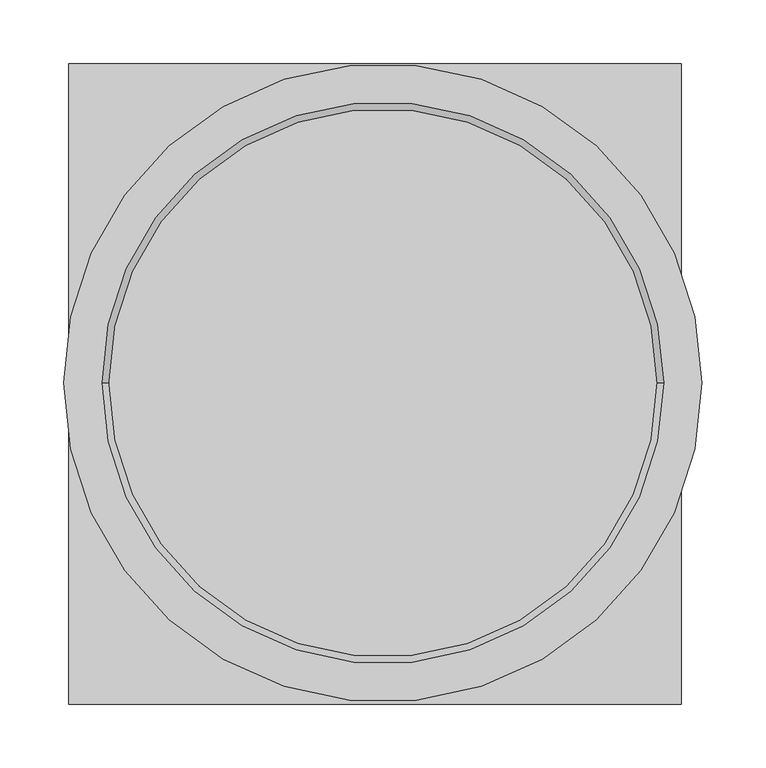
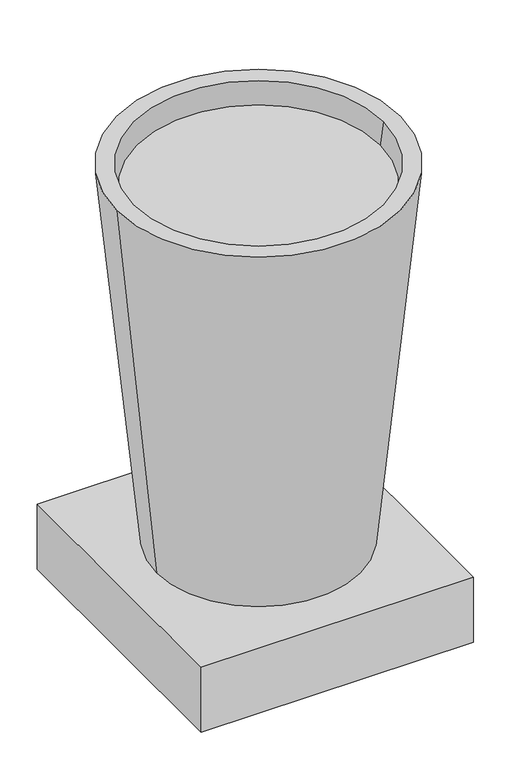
"""IFC4 building model written with IfcOpenShell, lengths in millimetres: flow terminal geometry, Fixierte Ausstattung Brunnen : Brunnen."""

from ifc_helpers import new_model, si_unit, frame, origin, place, context, project, spatial, polyline, circle_curve, outline, extrude, source, transform, mapped, element, save
from ifc_brep_helpers import plane_surface, revolved_surface, advanced_brep


def flow_terminal_dcfcd022(model_context):
    return source(origin(), model_context, "Body", "SolidModel", [
        extrude(outline(polyline([(233.7494364, 250.0), (233.7494364, -251.6607488), (-246.2505636, -251.6607488), (-246.2505636, 250.0), (233.7494364, 250.0)])), frame((0.0, 0.0, -121.0), z_axis=(0.0, 0.0, 1.0), x_axis=(1.0, 0.0, 0.0)), (0.0, 0.0, 1.0), 121.0),
        advanced_brep(
        [(-220.0, 0.0, 658.2324572), (220.0, 0.0, 658.2324572), (-130.0, 0.0, 50.0), (130.0, 0.0, 50.0)],
        [
            (0, 1, circle_curve(frame((0.0, 0.0, 658.2324572), z_axis=(0.0, 0.0, 1.0), x_axis=(1.0, 0.0, 0.0)), 220.0)),
            (1, 0, circle_curve(frame((0.0, 0.0, 658.2324572), z_axis=(0.0, 0.0, 1.0), x_axis=(-1.0, 0.0, 0.0)), 220.0)),
            (2, 3, circle_curve(frame((0.0, 0.0, 50.0), z_axis=(0.0, 0.0, -1.0), x_axis=(-1.0, 0.0, 0.0)), 130.0)),
            (3, 2, circle_curve(frame((0.0, 0.0, 50.0), z_axis=(0.0, 0.0, -1.0), x_axis=(1.0, 0.0, 0.0)), 130.0)),
            (2, 0),
            (1, 3),
        ],
        [
            plane_surface(frame((0.0, 0.0, 658.2324572), z_axis=(0.0, 0.0, 1.0), x_axis=(0.0, 1.0, 0.0))),
            plane_surface(frame((0.0, 0.0, 50.0), z_axis=(0.0, 0.0, -1.0), x_axis=(0.0, 1.0, 0.0))),
            revolved_surface(polyline([(-129.99999999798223, 0.0, 50.000000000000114), (-220.0, 0.0, 658.2324572)]), (0.0, 0.0, -828.5579937), (0.0, 0.0, 1.0)),
            revolved_surface(polyline([(129.99999999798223, 0.0, 50.000000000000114), (220.0, 0.0, 658.2324572)]), (0.0, 0.0, -828.5579937), (0.0, 0.0, 1.0)),
        ],
        [
            (0, [[1, 2]]),
            (1, [[3, 4]]),
            (2, [[5, -2, 6, -3]]),
            (3, [[-6, -1, -5, -4]]),
        ],
    ),
        advanced_brep(
        [(-250.0, 0.0, 700.0), (250.0, 0.0, 700.0), (220.0, 0.0, 700.0), (-220.0, 0.0, 700.0), (-180.0, 0.0, 0.0), (180.0, 0.0, 0.0), (-130.0, 0.0, 50.0), (130.0, 0.0, 50.0)],
        [
            (0, 1, circle_curve(frame((0.0, 0.0, 700.0), z_axis=(0.0, 0.0, 1.0), x_axis=(1.0, 0.0, 0.0)), 250.0)),
            (1, 0, circle_curve(frame((0.0, 0.0, 700.0), z_axis=(0.0, 0.0, 1.0), x_axis=(-1.0, 0.0, 0.0)), 250.0)),
            (2, 3, circle_curve(frame((0.0, 0.0, 700.0), z_axis=(0.0, 0.0, -1.0), x_axis=(1.0, 0.0, 0.0)), 220.0)),
            (3, 2, circle_curve(frame((0.0, 0.0, 700.0), z_axis=(0.0, 0.0, -1.0), x_axis=(-1.0, 0.0, 0.0)), 220.0)),
            (4, 5, circle_curve(frame((0.0, 0.0, 0.0), z_axis=(0.0, 0.0, -1.0), x_axis=(-1.0, 0.0, 0.0)), 180.0)),
            (5, 4, circle_curve(frame((0.0, 0.0, 0.0), z_axis=(0.0, 0.0, -1.0), x_axis=(1.0, 0.0, 0.0)), 180.0)),
            (1, 5),
            (4, 0),
            (6, 7, circle_curve(frame((0.0, 0.0, 50.0), z_axis=(0.0, 0.0, 1.0), x_axis=(1.0, 0.0, 0.0)), 130.0)),
            (7, 6, circle_curve(frame((0.0, 0.0, 50.0), z_axis=(0.0, 0.0, 1.0), x_axis=(-1.0, 0.0, 0.0)), 130.0)),
            (7, 2),
            (3, 6),
        ],
        [
            plane_surface(frame((0.0, 0.0, 700.0), z_axis=(0.0, 0.0, 1.0), x_axis=(0.0, 1.0, 0.0))),
            plane_surface(frame((0.0, 0.0, 0.0), z_axis=(0.0, 0.0, -1.0), x_axis=(0.0, 1.0, 0.0))),
            revolved_surface(polyline([(180.0, 0.0, 0.0), (250.0, 0.0, 700.0)]), (0.0, 0.0, -1800.0), (0.0, 0.0, 1.0)),
            revolved_surface(polyline([(-180.0, 0.0, 0.0), (-250.0, 0.0, 700.0)]), (0.0, 0.0, -1800.0), (0.0, 0.0, 1.0)),
            plane_surface(frame((0.0, 0.0, 50.0), z_axis=(0.0, 0.0, 1.0), x_axis=(0.0, 1.0, 0.0))),
            revolved_surface(polyline([(220.0, 0.0, 700.0), (130.00000000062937, 0.0, 50.0)]), (0.0, 0.0, -888.8888889), (0.0, 0.0, 1.0)),
            revolved_surface(polyline([(-220.0, 0.0, 700.0), (-130.00000000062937, 0.0, 50.0)]), (0.0, 0.0, -888.8888889), (0.0, 0.0, 1.0)),
        ],
        [
            (0, [[1, 2], [3, 4]]),
            (1, [[5, 6]]),
            (2, [[7, -5, 8, -2]]),
            (3, [[-8, -6, -7, -1]]),
            (4, [[9, 10]]),
            (5, [[11, -4, 12, -10]]),
            (6, [[-12, -3, -11, -9]]),
        ],
    ),
    ])


if __name__ == "__main__":
    model = new_model("IFC4")
    model_context = context("Model", 3, world=origin())
    ifc_project = project(units=[si_unit("LENGTHUNIT", "METRE", prefix="MILLI")], contexts=[model_context])
    site = spatial("IfcSite", under=ifc_project)
    building = spatial("IfcBuilding", under=site)
    placement = place(None, origin())
    flow_terminal_shape = flow_terminal_dcfcd022(model_context)
    element("IfcFlowTerminal", 1, ObjectType="Fixierte Ausstattung Brunnen : Brunnen", at=placement, inside=building, context=model_context, shape_type="MappedRepresentation", body=[
        mapped(flow_terminal_shape, transform((0.0, 0.0, 0.0), x_axis=(1.0, 0.0, 0.0), y_axis=(0.0, 1.0, 0.0), z_axis=(0.0, 0.0, 1.0))),
    ])
    save(model, "model.ifc")
